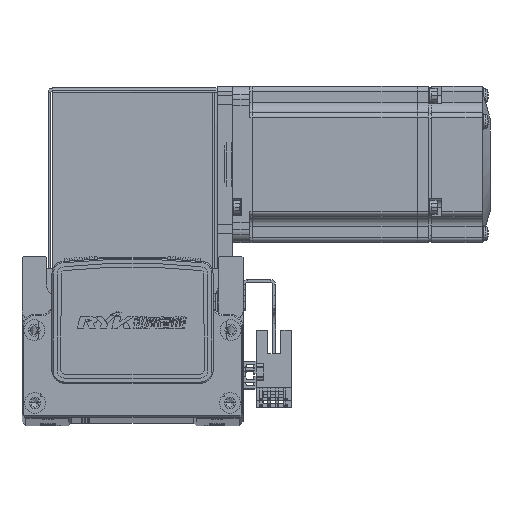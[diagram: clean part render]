
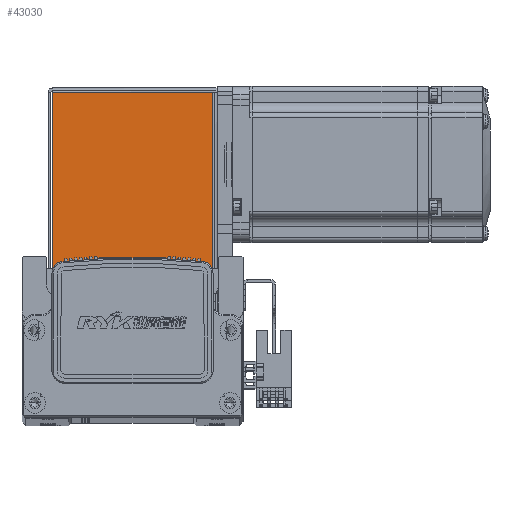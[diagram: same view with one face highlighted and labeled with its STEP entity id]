
A CAD part, top view. The second image highlights one B-rep face of the part: STEP entity #43030.
In plain terms, the highlighted planar face has unit normal (0, 0, 1) as drawn and (0, 0, -1) by its records, which use the part's own axes.
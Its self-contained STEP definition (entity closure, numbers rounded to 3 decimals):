
#33206 = EDGE_CURVE ( 'NONE', #35731, #35580, #70518, .T. ) ;
#33215 = EDGE_CURVE ( 'NONE', #35660, #35632, #70543, .T. ) ;
#33249 = EDGE_CURVE ( 'NONE', #35632, #35731, #70597, .T. ) ;
#33257 = EDGE_CURVE ( 'NONE', #35660, #35580, #70634, .T. ) ;
#35580 = VERTEX_POINT ( 'NONE', #45612 ) ;
#35632 = VERTEX_POINT ( 'NONE', #45601 ) ;
#35660 = VERTEX_POINT ( 'NONE', #45653 ) ;
#35731 = VERTEX_POINT ( 'NONE', #45693 ) ;
#38122 = CARTESIAN_POINT ( 'NONE',  ( 0., 0., -35. ) ) ;
#38138 = DIRECTION ( 'NONE',  ( 0., 0., 1. ) ) ;
#38161 = PLANE ( 'NONE',  #46670 ) ;
#38194 = DIRECTION ( 'NONE',  ( 0., -1., 0. ) ) ;
#43030 = ADVANCED_FACE ( 'NONE', ( #57037 ), #38161, .F. ) ;
#45601 = CARTESIAN_POINT ( 'NONE',  ( -30.793, 68.5, -35. ) ) ;
#45612 = CARTESIAN_POINT ( 'NONE',  ( 30.763, 0.737, -35. ) ) ;
#45653 = CARTESIAN_POINT ( 'NONE',  ( -30.793, 0.737, -35. ) ) ;
#45693 = CARTESIAN_POINT ( 'NONE',  ( 30.763, 68.5, -35. ) ) ;
#46670 = AXIS2_PLACEMENT_3D ( 'NONE', #38122, #38138, #38194 ) ;
#57037 = FACE_OUTER_BOUND ( 'NONE', #63114, .T. ) ;
#63114 = EDGE_LOOP ( 'NONE', ( #69326, #69451, #69473, #69418 ) ) ;
#69326 = ORIENTED_EDGE ( 'NONE', *, *, #33206, .T. ) ;
#69418 = ORIENTED_EDGE ( 'NONE', *, *, #33249, .T. ) ;
#69451 = ORIENTED_EDGE ( 'NONE', *, *, #33257, .F. ) ;
#69473 = ORIENTED_EDGE ( 'NONE', *, *, #33215, .T. ) ;
#70518 = LINE ( 'NONE', #73814, #70558 ) ;
#70543 = LINE ( 'NONE', #73816, #70571 ) ;
#70558 = VECTOR ( 'NONE', #73804, 1000. ) ;
#70571 = VECTOR ( 'NONE', #73824, 1000. ) ;
#70597 = LINE ( 'NONE', #73909, #70617 ) ;
#70617 = VECTOR ( 'NONE', #73911, 1000. ) ;
#70621 = VECTOR ( 'NONE', #73937, 1000. ) ;
#70634 = LINE ( 'NONE', #73877, #70621 ) ;
#73804 = DIRECTION ( 'NONE',  ( 0., -1., 0. ) ) ;
#73814 = CARTESIAN_POINT ( 'NONE',  ( 30.763, 68.5, -35. ) ) ;
#73816 = CARTESIAN_POINT ( 'NONE',  ( -30.793, 0., -35. ) ) ;
#73824 = DIRECTION ( 'NONE',  ( 0., 1., 0. ) ) ;
#73877 = CARTESIAN_POINT ( 'NONE',  ( 32.5, 0.737, -35. ) ) ;
#73909 = CARTESIAN_POINT ( 'NONE',  ( 0., 68.5, -35. ) ) ;
#73911 = DIRECTION ( 'NONE',  ( 1., 0., 0. ) ) ;
#73937 = DIRECTION ( 'NONE',  ( 1., 0., 0. ) ) ;
